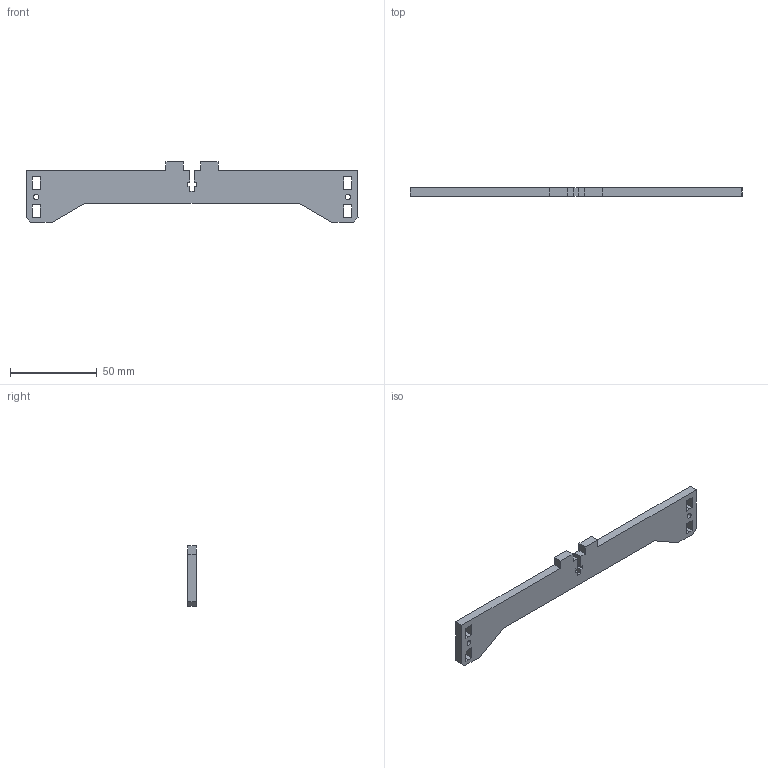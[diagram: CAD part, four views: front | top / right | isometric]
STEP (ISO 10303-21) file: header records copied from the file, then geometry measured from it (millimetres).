
FILE_DESCRIPTION(/* description */ (''),/* implementation_level */ '2;1');
FILE_NAME(/* name */ 'SOPORT~4',/* time_stamp */ '2019-04-01T21:21:46-03:00',/* author */ (''),/* organization */ (''),/* preprocessor_version */ 'ST-DEVELOPER v16.5',/* originating_system */ '',/* authorisation */ '');
FILE_SCHEMA (('AUTOMOTIVE_DESIGN'));
Length unit declared in the file: millimetre
Products named in the file (1): Document
Bounding box: 191.24 x 5 x 34.79 mm (x, y, z)
Volume: 20369.1 mm3; surface area: 11217.6 mm2
Topology: 1 solids, 1 shells, 57 faces, 165 edges, 110 vertices
Faces by surface type: plane 53, bspline 4
Entity records: 1708 total; most frequent: CARTESIAN_POINT 571, ORIENTED_EDGE 330, EDGE_CURVE 165, B_SPLINE_CURVE_WITH_KNOTS 153, VERTEX_POINT 110, EDGE_LOOP 69, ADVANCED_FACE 57, FACE_OUTER_BOUND 57
